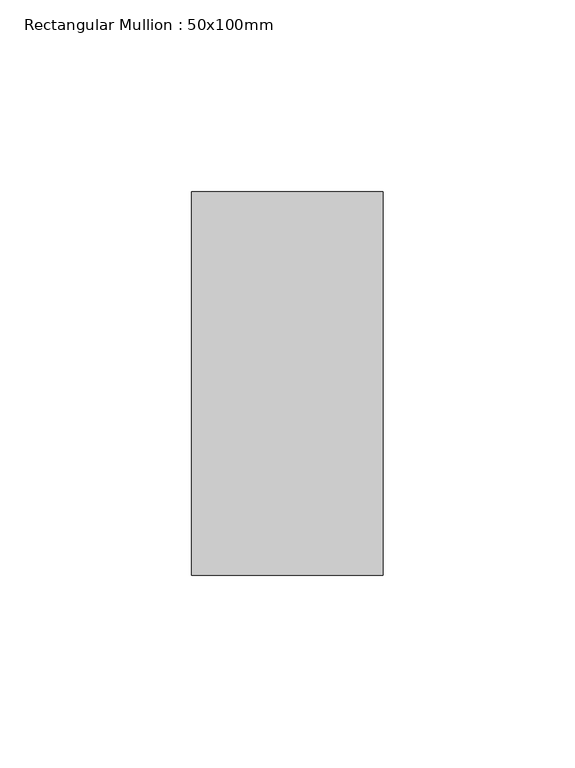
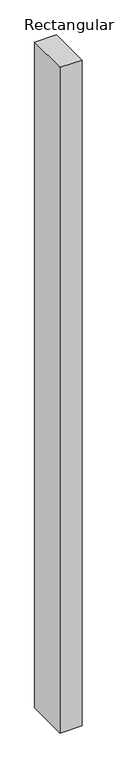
"""IFC4 building model written with IfcOpenShell, lengths in millimetres: member geometry, Rectangular Mullion : 50x100mm."""

from ifc_helpers import new_model, si_unit, frame, origin, place, context, project, spatial, polyline, outline, extrude, source, transform, mapped, element, save


def rectangular_mullion_50x100mm_cc1d420a(model_context):
    return source(origin(), model_context, "Body", "SweptSolid", [
        extrude(outline(polyline([(25.0, 50.0), (25.0, -50.0), (-25.0, -50.0), (-25.0, 50.0), (25.0, 50.0)])), frame((0.0, 0.0, -1601.0), z_axis=(0.0, 0.0, 1.0), x_axis=(1.0, 0.0, 0.0)), (0.0, 0.0, 1.0), 1601.0),
    ])


if __name__ == "__main__":
    model = new_model("IFC4")
    model_context = context("Model", 3, world=origin())
    ifc_project = project(units=[si_unit("LENGTHUNIT", "METRE", prefix="MILLI")], contexts=[model_context])
    site = spatial("IfcSite", under=ifc_project)
    building = spatial("IfcBuilding", under=site)
    placement = place(None, origin())
    rectangular_mullion_50x100mm_shape = rectangular_mullion_50x100mm_cc1d420a(model_context)
    element("IfcMember", 1, ObjectType="Rectangular Mullion : 50x100mm", at=placement, inside=building, context=model_context, shape_type="MappedRepresentation", body=[
        mapped(rectangular_mullion_50x100mm_shape, transform((0.0, 0.0, 0.0), x_axis=(1.0, 0.0, 0.0), y_axis=(0.0, 1.0, 0.0), z_axis=(0.0, 0.0, 1.0))),
    ])
    save(model, "model.ifc")
